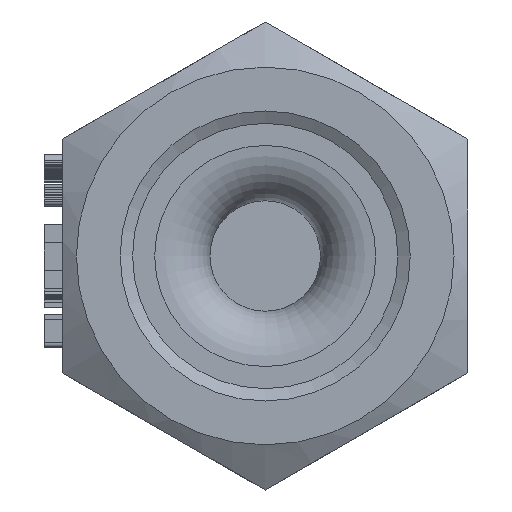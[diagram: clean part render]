
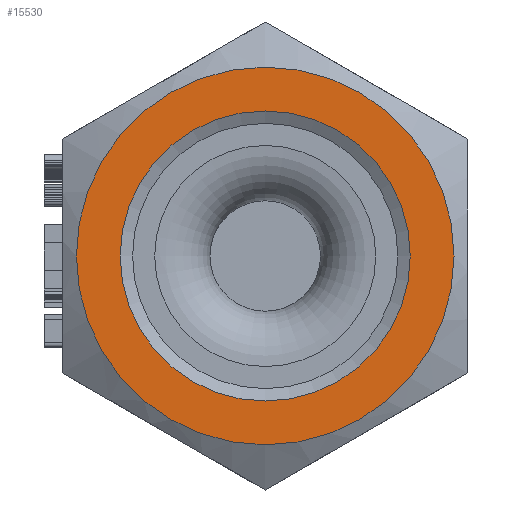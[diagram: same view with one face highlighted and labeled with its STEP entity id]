
A CAD part, front view. The second image highlights one B-rep face of the part: STEP entity #15530.
In plain terms, the highlighted planar face has unit normal (0, -1, 0).
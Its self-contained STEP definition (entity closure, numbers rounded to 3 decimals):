
#42=CIRCLE('',#16124,10.25);
#46=CIRCLE('',#16135,7.873);
#194=FACE_BOUND('',#2476,.T.);
#765=PLANE('',#16136);
#1580=FACE_OUTER_BOUND('',#2475,.T.);
#2475=EDGE_LOOP('',(#14485));
#2476=EDGE_LOOP('',(#14486));
#7840=VERTEX_POINT('',#26575);
#7844=VERTEX_POINT('',#26591);
#10053=EDGE_CURVE('',#7840,#7840,#42,.T.);
#10058=EDGE_CURVE('',#7844,#7844,#46,.T.);
#14485=ORIENTED_EDGE('',*,*,#10053,.T.);
#14486=ORIENTED_EDGE('',*,*,#10058,.T.);
#15530=ADVANCED_FACE('',(#1580,#194),#765,.T.);
#16124=AXIS2_PLACEMENT_3D('',#26576,#19034,#19035);
#16135=AXIS2_PLACEMENT_3D('',#26592,#19057,#19058);
#16136=AXIS2_PLACEMENT_3D('',#26593,#19059,#19060);
#19034=DIRECTION('center_axis',(0.,-1.,0.));
#19035=DIRECTION('ref_axis',(0.,0.,-1.));
#19057=DIRECTION('center_axis',(0.,1.,0.));
#19058=DIRECTION('ref_axis',(-1.,0.,0.));
#19059=DIRECTION('center_axis',(0.,-1.,0.));
#19060=DIRECTION('ref_axis',(0.,0.,-1.));
#26575=CARTESIAN_POINT('',(0.,0.,-10.25));
#26576=CARTESIAN_POINT('Origin',(0.,0.,0.));
#26591=CARTESIAN_POINT('',(-7.873,0.,0.));
#26592=CARTESIAN_POINT('Origin',(0.,0.,0.));
#26593=CARTESIAN_POINT('Origin',(-9.061,0.,
0.));
